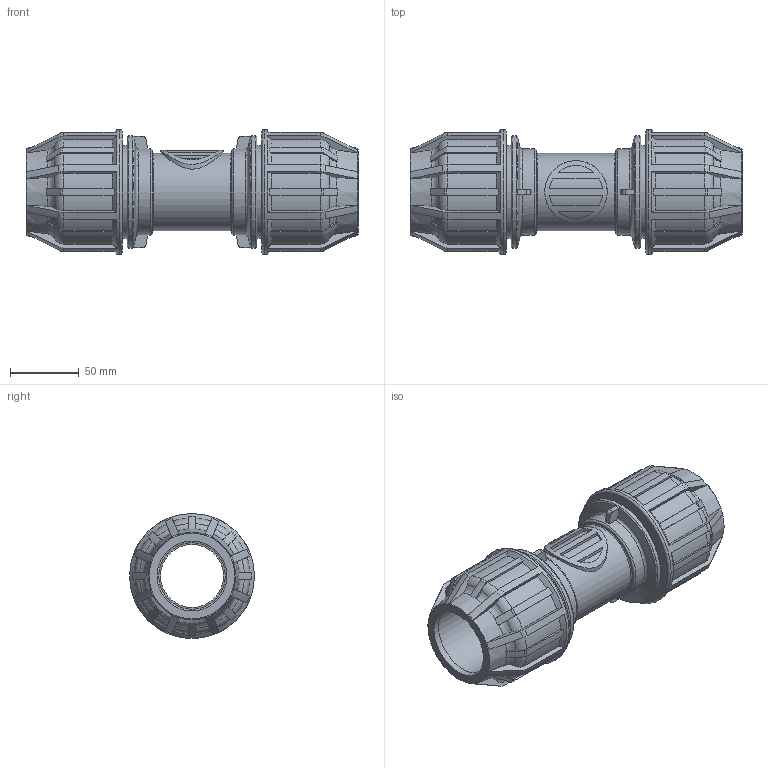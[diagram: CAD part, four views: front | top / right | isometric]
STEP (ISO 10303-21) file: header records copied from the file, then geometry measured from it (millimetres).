
FILE_DESCRIPTION(/* description */ ('STEP AP214'),/* implementation_level */ '2;1');
FILE_NAME(/* name */ '331B00050(400)',/* time_stamp */ '2025-01-13T14:31:53+01:00',/* author */ ('License CC BY-ND 4.0'),/* organization */ ('CADENAS'),/* preprocessor_version */ 'ST-DEVELOPER v19.3',/* originating_system */ 'PARTsolutions',/* authorisation */ ' ');
FILE_SCHEMA (('AUTOMOTIVE_DESIGN {1 0 10303 214 3 1 1}'));
Length unit declared in the file: millimetre
Products named in the file (1): 331B00050(400)
Bounding box: 242 x 91 x 91 mm (x, y, z)
Volume: 564091.3 mm3; surface area: 121923.7 mm2
Topology: 1 solids, 1 shells, 362 faces, 1024 edges, 679 vertices
Faces by surface type: torus 114, plane 98, cylinder 82, cone 68
Full cylindrical faces by diameter (mm): 45.496 x1, 45.9 x1, 51 x2, 53 x2, 56.42 x1, 62.79 x2, 67.34 x2, 81.9 x2, 91 x2
Entity records: 12260 total; most frequent: CARTESIAN_POINT 3611, ORIENTED_EDGE 1972, DIRECTION 1578, EDGE_CURVE 986, AXIS2_PLACEMENT_3D 695, VERTEX_POINT 670, B_SPLINE_CURVE_WITH_KNOTS 466, EDGE_LOOP 408
